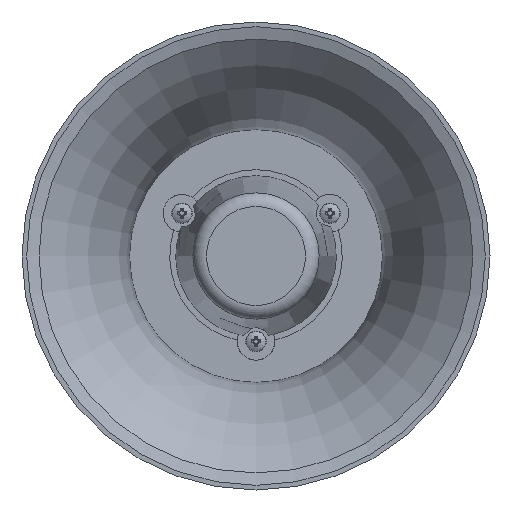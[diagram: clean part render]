
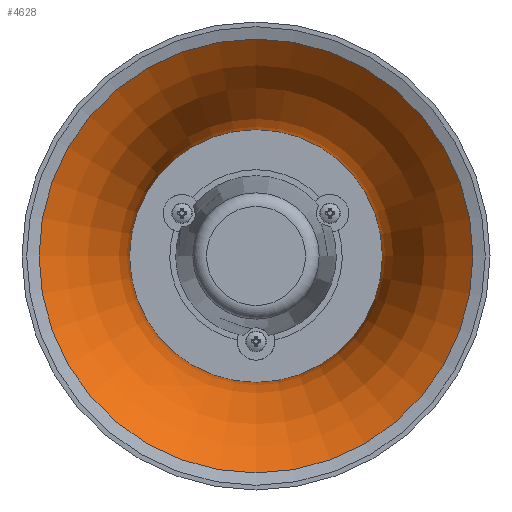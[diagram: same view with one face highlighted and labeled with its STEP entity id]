
A CAD part, left-side view. The second image highlights one B-rep face of the part: STEP entity #4628.
In plain terms, the highlighted toroidal (fillet/blend) face has major radius 104.459 mm and minor radius 67.459 mm.
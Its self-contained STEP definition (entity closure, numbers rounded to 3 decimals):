
#4408=CARTESIAN_POINT('',(-167.01,-55.003,-31.756));
#4409=VERTEX_POINT('',#4408);
#4410=CARTESIAN_POINT('',(-167.01,0.,0.));
#4411=DIRECTION('',(1.0,0.,0.));
#4412=DIRECTION('',(0.,0.866,0.5));
#4413=AXIS2_PLACEMENT_3D('',#4410,#4411,#4412);
#4414=CIRCLE('',#4413,63.512);
#4415=EDGE_CURVE('',#4409,#4409,#4414,.T.);
#4609=CARTESIAN_POINT('',(-113.4,0.,0.));
#4610=DIRECTION('',(-1.0,0.,0.));
#4611=DIRECTION('',(0.,0.866,0.5));
#4612=AXIS2_PLACEMENT_3D('',#4609,#4610,#4611);
#4613=TOROIDAL_SURFACE('',#4612,104.459,67.459);
#4614=ORIENTED_EDGE('',*,*,#4415,.F.);
#4615=EDGE_LOOP('',(#4614));
#4616=FACE_OUTER_BOUND('',#4615,.T.);
#4617=CARTESIAN_POINT('',(-113.4,18.5,-32.043));
#4618=VERTEX_POINT('',#4617);
#4619=CARTESIAN_POINT('',(-113.4,0.,0.));
#4620=DIRECTION('',(-1.0,0.,0.));
#4621=DIRECTION('',(0.,0.5,-0.866));
#4622=AXIS2_PLACEMENT_3D('',#4619,#4620,#4621);
#4623=CIRCLE('',#4622,37.);
#4624=EDGE_CURVE('',#4618,#4618,#4623,.T.);
#4625=ORIENTED_EDGE('',*,*,#4624,.F.);
#4626=EDGE_LOOP('',(#4625));
#4627=FACE_BOUND('',#4626,.T.);
#4628=ADVANCED_FACE('',(#4616,#4627),#4613,.T.);
